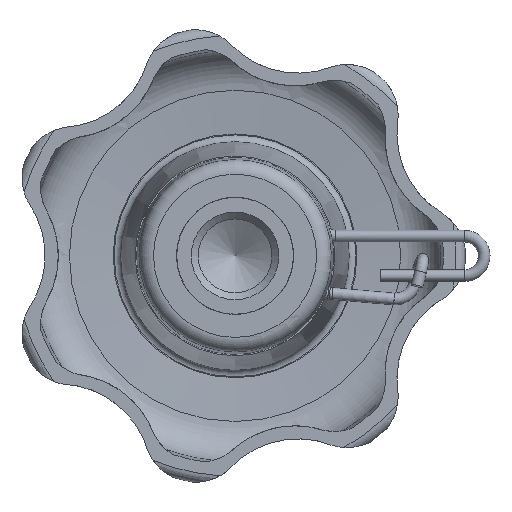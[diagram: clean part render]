
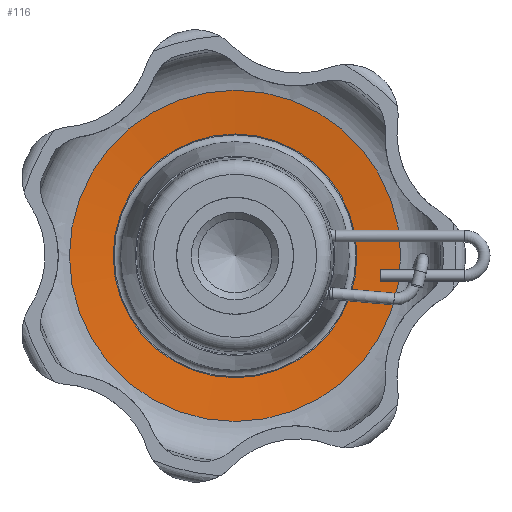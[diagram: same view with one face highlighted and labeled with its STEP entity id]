
A CAD part, front view. The second image highlights one B-rep face of the part: STEP entity #116.
In plain terms, the highlighted conical face has half-angle 84.94 degrees and reference radius 22.669 mm.
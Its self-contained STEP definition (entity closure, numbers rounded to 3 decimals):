
#116 = ADVANCED_FACE( '', ( #287, #288 ), #289, .F. );
#287 = FACE_BOUND( '', #530, .T. );
#288 = FACE_OUTER_BOUND( '', #531, .T. );
#289 = CONICAL_SURFACE( '', #532, 22.669, 1.482 );
#530 = EDGE_LOOP( '', ( #1005 ) );
#531 = EDGE_LOOP( '', ( #1006 ) );
#532 = AXIS2_PLACEMENT_3D( '', #1007, #1008, #1009 );
#1005 = ORIENTED_EDGE( '', *, *, #1629, .F. );
#1006 = ORIENTED_EDGE( '', *, *, #1630, .T. );
#1007 = CARTESIAN_POINT( '', ( 0., 30.39, 0. ) );
#1008 = DIRECTION( '', ( 0., -1., 0. ) );
#1009 = DIRECTION( '', ( 0., 0., -1. ) );
#1629 = EDGE_CURVE( '', #2015, #2015, #2016, .T. );
#1630 = EDGE_CURVE( '', #2017, #2017, #2018, .T. );
#2015 = VERTEX_POINT( '', #3109 );
#2016 = CIRCLE( '', #3110, 16.683 );
#2017 = VERTEX_POINT( '', #3111 );
#2018 = CIRCLE( '', #3112, 22.669 );
#3109 = CARTESIAN_POINT( '', ( 0., 30.92, -16.683 ) );
#3110 = AXIS2_PLACEMENT_3D( '', #3995, #3996, #3997 );
#3111 = CARTESIAN_POINT( '', ( 0., 30.39, -22.669 ) );
#3112 = AXIS2_PLACEMENT_3D( '', #3998, #3999, #4000 );
#3995 = CARTESIAN_POINT( '', ( 0., 30.92, 0. ) );
#3996 = DIRECTION( '', ( 0., -1., 0. ) );
#3997 = DIRECTION( '', ( 0., 0., -1. ) );
#3998 = CARTESIAN_POINT( '', ( 0., 30.39, 0. ) );
#3999 = DIRECTION( '', ( 0., -1., 0. ) );
#4000 = DIRECTION( '', ( 0., 0., -1. ) );
